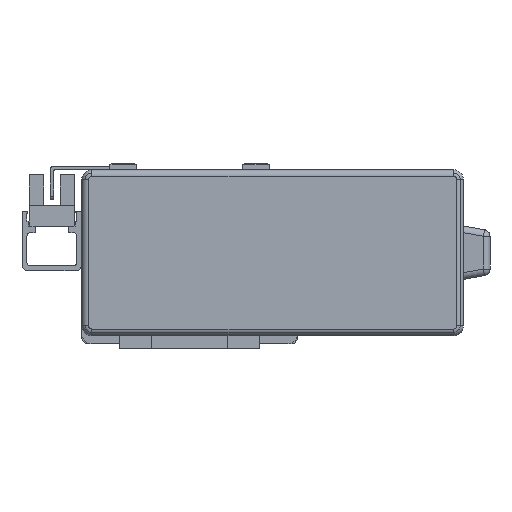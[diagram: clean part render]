
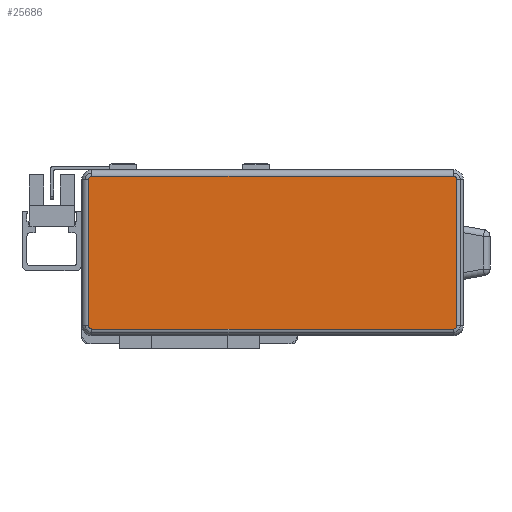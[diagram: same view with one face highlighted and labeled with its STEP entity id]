
A CAD part, left-side view. The second image highlights one B-rep face of the part: STEP entity #25686.
In plain terms, the highlighted planar face has unit normal (-1, 0, 0) as drawn and (0, 0, 1) by its records, which use the part's own axes.
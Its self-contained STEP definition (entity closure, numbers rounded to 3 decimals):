
#123 = EDGE_CURVE ( 'NONE', #787, #8439, #3823, .T. ) ;
#787 = VERTEX_POINT ( 'NONE', #2438 ) ;
#971 = CARTESIAN_POINT ( 'NONE',  ( 54.5, 22., 40. ) ) ;
#1830 = ORIENTED_EDGE ( 'NONE', *, *, #25404, .T. ) ;
#1872 = DIRECTION ( 'NONE',  ( -1., 0., 0. ) ) ;
#2156 = CARTESIAN_POINT ( 'NONE',  ( 55.5, -22., 40. ) ) ;
#2295 = CARTESIAN_POINT ( 'NONE',  ( -55.5, 0., 40. ) ) ;
#2438 = CARTESIAN_POINT ( 'NONE',  ( -55.5, 22., 40. ) ) ;
#2536 = CARTESIAN_POINT ( 'NONE',  ( 54.5, -23., 40. ) ) ;
#2773 = PLANE ( 'NONE',  #18180 ) ;
#3056 = DIRECTION ( 'NONE',  ( -1., 0., 0. ) ) ;
#3706 = VERTEX_POINT ( 'NONE', #2536 ) ;
#3738 = LINE ( 'NONE', #20927, #8641 ) ;
#3823 = LINE ( 'NONE', #2295, #24806 ) ;
#3999 = CARTESIAN_POINT ( 'NONE',  ( -54.5, -22., 40. ) ) ;
#5541 = CIRCLE ( 'NONE', #24224, 1. ) ;
#5687 = AXIS2_PLACEMENT_3D ( 'NONE', #3999, #18629, #6079 ) ;
#6079 = DIRECTION ( 'NONE',  ( -1., 0., 0. ) ) ;
#6097 = CARTESIAN_POINT ( 'NONE',  ( 0., 23., 40. ) ) ;
#6252 = DIRECTION ( 'NONE',  ( 1., 0., 0. ) ) ;
#7503 = CARTESIAN_POINT ( 'NONE',  ( 54.5, 23., 40. ) ) ;
#7698 = VERTEX_POINT ( 'NONE', #23784 ) ;
#8332 = EDGE_CURVE ( 'NONE', #7698, #3706, #3738, .T. ) ;
#8416 = CARTESIAN_POINT ( 'NONE',  ( -54.5, 22., 40. ) ) ;
#8439 = VERTEX_POINT ( 'NONE', #19261 ) ;
#8555 = CIRCLE ( 'NONE', #5687, 1. ) ;
#8641 = VECTOR ( 'NONE', #6252, 1000. ) ;
#8980 = EDGE_LOOP ( 'NONE', ( #23028, #1830, #12662, #10854, #11433, #12144, #22000, #9335 ) ) ;
#9335 = ORIENTED_EDGE ( 'NONE', *, *, #16111, .T. ) ;
#9379 = LINE ( 'NONE', #6097, #14946 ) ;
#9961 = CIRCLE ( 'NONE', #12837, 1. ) ;
#10341 = EDGE_CURVE ( 'NONE', #17086, #20484, #5541, .T. ) ;
#10505 = DIRECTION ( 'NONE',  ( -1., 0., 0. ) ) ;
#10559 = LINE ( 'NONE', #16393, #25340 ) ;
#10854 = ORIENTED_EDGE ( 'NONE', *, *, #10341, .T. ) ;
#11185 = DIRECTION ( 'NONE',  ( -1., 0., 0. ) ) ;
#11433 = ORIENTED_EDGE ( 'NONE', *, *, #26042, .T. ) ;
#11692 = FACE_OUTER_BOUND ( 'NONE', #8980, .T. ) ;
#12144 = ORIENTED_EDGE ( 'NONE', *, *, #13054, .T. ) ;
#12422 = VERTEX_POINT ( 'NONE', #2156 ) ;
#12662 = ORIENTED_EDGE ( 'NONE', *, *, #21960, .T. ) ;
#12703 = DIRECTION ( 'NONE',  ( 0., -1., 0. ) ) ;
#12837 = AXIS2_PLACEMENT_3D ( 'NONE', #8416, #23099, #10505 ) ;
#13054 = EDGE_CURVE ( 'NONE', #23493, #787, #9961, .T. ) ;
#14391 = DIRECTION ( 'NONE',  ( 0., 0., 1. ) ) ;
#14946 = VECTOR ( 'NONE', #18652, 1000. ) ;
#15479 = CARTESIAN_POINT ( 'NONE',  ( 55.5, 22., 40. ) ) ;
#15572 = DIRECTION ( 'NONE',  ( 0., 0., 1. ) ) ;
#15889 = AXIS2_PLACEMENT_3D ( 'NONE', #26966, #14391, #1872 ) ;
#16111 = EDGE_CURVE ( 'NONE', #8439, #7698, #8555, .T. ) ;
#16393 = CARTESIAN_POINT ( 'NONE',  ( 55.5, 0., 40. ) ) ;
#17086 = VERTEX_POINT ( 'NONE', #15479 ) ;
#17424 = CARTESIAN_POINT ( 'NONE',  ( 0., 0., 40. ) ) ;
#17613 = CIRCLE ( 'NONE', #15889, 1. ) ;
#18180 = AXIS2_PLACEMENT_3D ( 'NONE', #17424, #23752, #11185 ) ;
#18629 = DIRECTION ( 'NONE',  ( 0., 0., 1. ) ) ;
#18652 = DIRECTION ( 'NONE',  ( -1., 0., 0. ) ) ;
#19261 = CARTESIAN_POINT ( 'NONE',  ( -55.5, -22., 40. ) ) ;
#20484 = VERTEX_POINT ( 'NONE', #7503 ) ;
#20927 = CARTESIAN_POINT ( 'NONE',  ( 0., -23., 40. ) ) ;
#21960 = EDGE_CURVE ( 'NONE', #12422, #17086, #10559, .T. ) ;
#22000 = ORIENTED_EDGE ( 'NONE', *, *, #123, .T. ) ;
#23028 = ORIENTED_EDGE ( 'NONE', *, *, #8332, .T. ) ;
#23099 = DIRECTION ( 'NONE',  ( 0., 0., 1. ) ) ;
#23493 = VERTEX_POINT ( 'NONE', #26435 ) ;
#23752 = DIRECTION ( 'NONE',  ( 0., 0., -1. ) ) ;
#23784 = CARTESIAN_POINT ( 'NONE',  ( -54.5, -23., 40. ) ) ;
#24224 = AXIS2_PLACEMENT_3D ( 'NONE', #971, #15572, #3056 ) ;
#24806 = VECTOR ( 'NONE', #12703, 1000. ) ;
#25340 = VECTOR ( 'NONE', #26861, 1000. ) ;
#25404 = EDGE_CURVE ( 'NONE', #3706, #12422, #17613, .T. ) ;
#25686 = ADVANCED_FACE ( 'NONE', ( #11692 ), #2773, .F. ) ;
#26042 = EDGE_CURVE ( 'NONE', #20484, #23493, #9379, .T. ) ;
#26435 = CARTESIAN_POINT ( 'NONE',  ( -54.5, 23., 40. ) ) ;
#26861 = DIRECTION ( 'NONE',  ( 0., 1., 0. ) ) ;
#26966 = CARTESIAN_POINT ( 'NONE',  ( 54.5, -22., 40. ) ) ;
